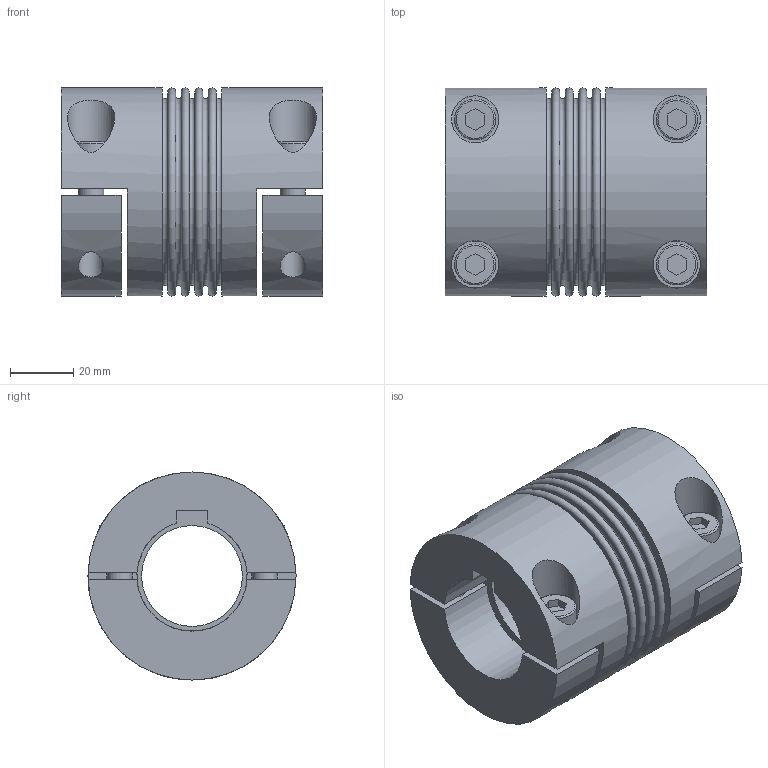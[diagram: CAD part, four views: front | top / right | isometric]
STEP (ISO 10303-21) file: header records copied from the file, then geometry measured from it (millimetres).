
FILE_DESCRIPTION(/* description */ ('STEP AP214'),/* implementation_level */ '2;1');
FILE_NAME(/* name */ 'C:\Diequa Files\DieQua Coupling\BCS\STP\BCS.60.83.#.#.stp',/* time_stamp */ '2018-11-15T09:21:38-06:00',/* author */ ('DiequaCAD'),/* organization */ (''),/* preprocessor_version */ 'ST-DEVELOPER v17.2',/* originating_system */ 'Autodesk Inventor 2019',/* authorisation */ ' ');
FILE_SCHEMA (('AUTOMOTIVE_DESIGN { 1 0 10303 214 3 1 1 }'));
Length unit declared in the file: millimetre
Products named in the file (1): BKH_60_83_35_PFN_35_PFN_10
Bounding box: 83 x 66 x 66 mm (x, y, z)
Volume: 183751.8 mm3; surface area: 47357.8 mm2
Topology: 1 solids, 1 shells, 112 faces, 272 edges, 188 vertices
Faces by surface type: plane 74, cylinder 25, torus 13
Full cylindrical faces by diameter (mm): 8 x8, 13 x4, 15 x4, 32 x1, 66 x2
Entity records: 3705 total; most frequent: CARTESIAN_POINT 899, DIRECTION 583, ORIENTED_EDGE 544, EDGE_CURVE 272, AXIS2_PLACEMENT_3D 218, VERTEX_POINT 188, EDGE_LOOP 152, LINE 147
